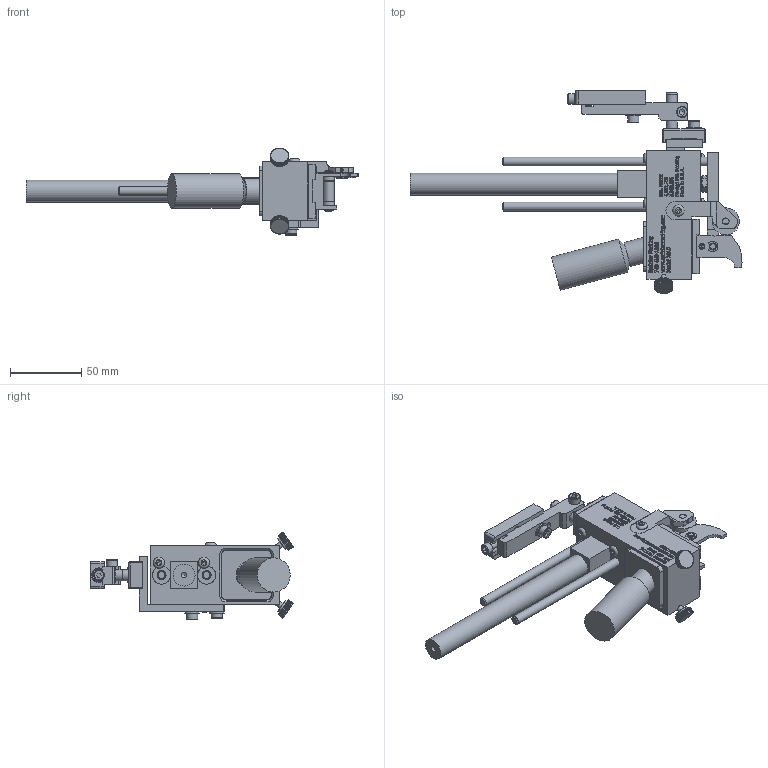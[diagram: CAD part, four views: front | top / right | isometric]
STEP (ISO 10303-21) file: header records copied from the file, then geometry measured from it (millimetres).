
FILE_DESCRIPTION((''),'2;1');
FILE_NAME('C:\Documents and Settings\Ron\My Documents\Inventor\Sprinter Drawing\Machines in Inventor\Model 1010\Type\Ext Str\E2\Brkt\Ret\Model 1010 ES 2 retracted w brkt.stp','2009-01-21T09:20:10',('Ron'),(''),'Autodesk Inventor 2008','Autodesk Inventor 2008','');
FILE_SCHEMA(('AUTOMOTIVE_DESIGN { 1 0 10303 214 1 1 1 1 }'));
Length unit declared in the file: inch
Products named in the file (1): Model 1010 ES 2 retracted w brkt
Bounding box: 233.76 x 142.74 x 61.82 mm (x, y, z)
Volume: 249007.6 mm3; surface area: 85586.2 mm2
Topology: 385 solids, 385 shells, 6612 faces, 16490 edges, 10228 vertices
Faces by surface type: plane 4582, bspline 1380, cylinder 550, cone 75, torus 21, sphere 4
Full cylindrical faces by diameter (mm): 2.845 x1, 3.175 x1, 3.505 x1, 3.708 x2, 4.064 x2, 4.166 x5, 4.75 x5, 4.775 x2, 4.826 x10, 5.08 x1, 5.156 x3, 6.223 x2, 6.325 x2, 6.35 x2, 6.604 x1, 6.68 x1, 6.858 x2, 7.62 x2, 7.925 x11, 7.938 x1, 9.017 x1, 9.525 x2, 10.312 x4, 10.922 x1, 15.494 x1, 17.526 x1, 19.05 x1, 24.13 x1
Entity records: 206642 total; most frequent: CARTESIAN_POINT 56630, ORIENTED_EDGE 32334, DIRECTION 25259, EDGE_CURVE 16167, VECTOR 12037, LINE 12037, VERTEX_POINT 10120, EDGE_LOOP 7231
